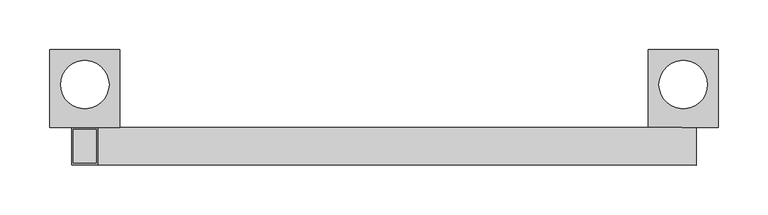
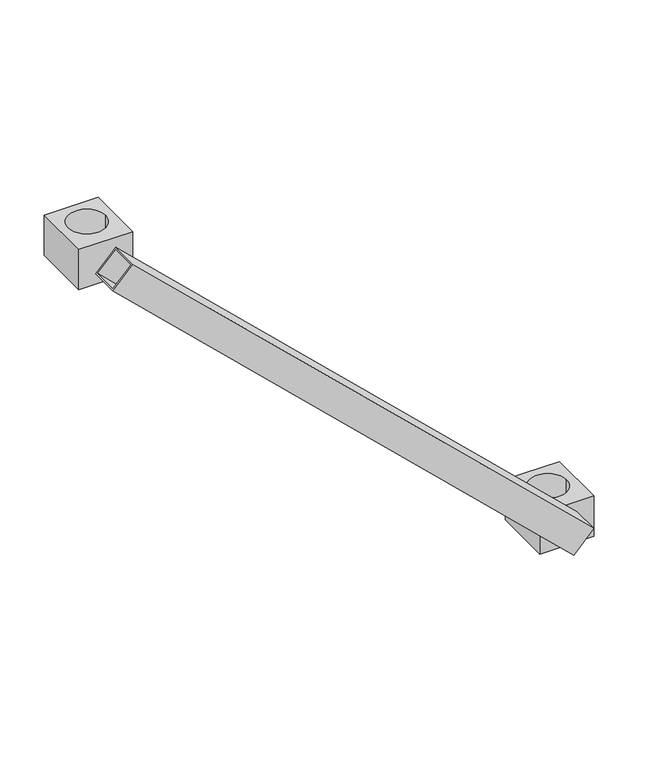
"""IFC4 building model written with IfcOpenShell, lengths in millimetres: proxy geometry, AK_アルバトロスAK伸縮斜材 : H0900×L0600."""

from ifc_helpers import new_model, si_unit, point, frame, frame_2d, origin, place, context, project, spatial, polyline, circle_curve, trimmed, segment, composite_curve, outline, extrude, source, transform, mapped, element, save


def generic_models_037b7c47(model_context):
    return source(origin(), model_context, "Body", "SweptSolid", [
        extrude(outline(polyline([(0.0, 0.0), (0.0, -38.0), (-38.0, -38.0), (-38.0, 0.0), (0.0, 0.0)]), holes=[polyline([(-2.0, -2.0), (-36.0, -2.0), (-36.0, -36.0), (-2.0, -36.0), (-2.0, -2.0)])]), frame((13.1282683, 19.0, 13.7349398), z_axis=(-0.7228915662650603, 0.0, 0.6909614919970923), x_axis=(0.6909614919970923, 0.0, 0.7228915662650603)), (0.0, 0.0, 1.0), 830.0),
        extrude(outline(polyline([(35.0, 96.8842695), (35.0, 19.0), (-35.0, 19.0), (-35.0, 96.8842695), (35.0, 96.8842695)]), holes=[composite_curve([segment(trimmed(circle_curve(frame_2d((0.0, 61.8842695)), 24.3), [point((24.3, 61.8842695))], [point((-24.3, 61.8842695))], True, "CARTESIAN"), True, "CONTINUOUS"), segment(trimmed(circle_curve(frame_2d((0.0, 61.8842695)), 24.3), [point((-24.3, 61.8842695))], [point((24.3, 61.8842695))], True, "CARTESIAN"), True, "CONTINUOUS")], self_intersect=False)]), frame((0.0, 0.0, -27.7559086), z_axis=(0.0, 0.0, 1.0), x_axis=(1.0, 0.0, 0.0)), (0.0, 0.0, 1.0), 55.5118171),
        extrude(outline(polyline([(-565.0, 19.0), (-635.0, 19.0), (-635.0, 96.8842695), (-565.0, 96.8842695), (-565.0, 19.0)]), holes=[composite_curve([segment(trimmed(circle_curve(frame_2d((-600.0, 61.8842695)), 24.3), [point((-575.7, 61.8842695))], [point((-624.3, 61.8842695))], True, "CARTESIAN"), True, "CONTINUOUS"), segment(trimmed(circle_curve(frame_2d((-600.0, 61.8842695)), 24.3), [point((-624.3, 61.8842695))], [point((-575.7, 61.8842695))], True, "CARTESIAN"), True, "CONTINUOUS")], self_intersect=False)]), frame((0.0, 0.0, 545.7421298), z_axis=(0.0, 0.0, 1.0), x_axis=(1.0, 0.0, 0.0)), (0.0, 0.0, 1.0), 55.5118171),
    ])


if __name__ == "__main__":
    model = new_model("IFC4")
    model_context = context("Model", 3, world=origin())
    ifc_project = project(units=[si_unit("LENGTHUNIT", "METRE", prefix="MILLI")], contexts=[model_context])
    site = spatial("IfcSite", under=ifc_project)
    building = spatial("IfcBuilding", under=site)
    placement = place(None, origin())
    generic_models_shape = generic_models_037b7c47(model_context)
    element("IfcBuildingElementProxy", 1, Name="AK_アルバトロスAK伸縮斜材 : H0900×L0600", ObjectType="AK_アルバトロスAK伸縮斜材 : H0900×L0600", at=placement, inside=building, context=model_context, shape_type="MappedRepresentation", body=[
        mapped(generic_models_shape, transform((0.0, 0.0, 0.0), x_axis=(1.0, 0.0, 0.0), y_axis=(0.0, 1.0, 0.0), z_axis=(0.0, 0.0, 1.0))),
    ])
    save(model, "model.ifc")
